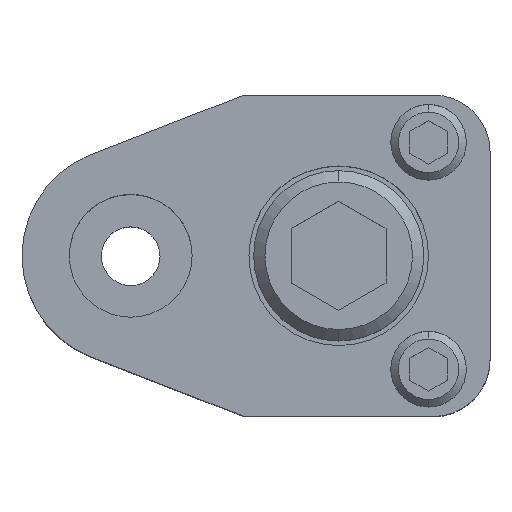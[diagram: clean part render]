
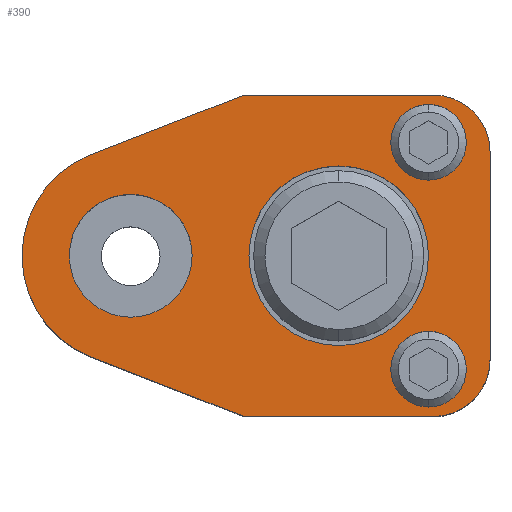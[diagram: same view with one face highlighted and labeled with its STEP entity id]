
A CAD part, top view. The second image highlights one B-rep face of the part: STEP entity #390.
In plain terms, the highlighted planar face has unit normal (0, 0, 1).
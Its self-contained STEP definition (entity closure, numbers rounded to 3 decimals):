
#192=FACE_BOUND('',#693,.T.);
#193=FACE_BOUND('',#694,.T.);
#194=FACE_BOUND('',#695,.T.);
#195=FACE_BOUND('',#696,.T.);
#196=FACE_BOUND('',#697,.T.);
#243=CIRCLE('',#2256,6.);
#246=CIRCLE('',#2262,6.);
#251=CIRCLE('',#2270,9.5);
#253=CIRCLE('',#2273,9.5);
#255=CIRCLE('',#2277,11.5);
#256=CIRCLE('',#2278,4.);
#257=CIRCLE('',#2279,4.);
#258=CIRCLE('',#2280,4.);
#259=CIRCLE('',#2281,4.);
#260=CIRCLE('',#2282,6.5);
#261=CIRCLE('',#2283,6.5);
#390=ADVANCED_FACE('',(#192,#193,#194,#195,#196),#501,.T.);
#501=PLANE('',#2284);
#693=EDGE_LOOP('',(#973,#974,#975,#976,#977,#978,#979,#980));
#694=EDGE_LOOP('',(#981,#982));
#695=EDGE_LOOP('',(#983,#984));
#696=EDGE_LOOP('',(#985,#986));
#697=EDGE_LOOP('',(#987,#988));
#973=ORIENTED_EDGE('',*,*,#1647,.T.);
#974=ORIENTED_EDGE('',*,*,#1651,.T.);
#975=ORIENTED_EDGE('',*,*,#1654,.T.);
#976=ORIENTED_EDGE('',*,*,#1674,.T.);
#977=ORIENTED_EDGE('',*,*,#1675,.T.);
#978=ORIENTED_EDGE('',*,*,#1676,.T.);
#979=ORIENTED_EDGE('',*,*,#1657,.T.);
#980=ORIENTED_EDGE('',*,*,#1661,.T.);
#981=ORIENTED_EDGE('',*,*,#1677,.F.);
#982=ORIENTED_EDGE('',*,*,#1678,.F.);
#983=ORIENTED_EDGE('',*,*,#1679,.F.);
#984=ORIENTED_EDGE('',*,*,#1680,.F.);
#985=ORIENTED_EDGE('',*,*,#1672,.F.);
#986=ORIENTED_EDGE('',*,*,#1668,.F.);
#987=ORIENTED_EDGE('',*,*,#1681,.T.);
#988=ORIENTED_EDGE('',*,*,#1682,.T.);
#1434=VERTEX_POINT('',#3270);
#1435=VERTEX_POINT('',#3272);
#1438=VERTEX_POINT('',#3279);
#1440=VERTEX_POINT('',#3285);
#1442=VERTEX_POINT('',#3291);
#1443=VERTEX_POINT('',#3293);
#1449=VERTEX_POINT('',#3314);
#1450=VERTEX_POINT('',#3315);
#1453=VERTEX_POINT('',#3327);
#1454=VERTEX_POINT('',#3329);
#1455=VERTEX_POINT('',#3332);
#1456=VERTEX_POINT('',#3333);
#1457=VERTEX_POINT('',#3336);
#1458=VERTEX_POINT('',#3337);
#1459=VERTEX_POINT('',#3340);
#1460=VERTEX_POINT('',#3341);
#1647=EDGE_CURVE('',#1435,#1434,#1925,.T.);
#1651=EDGE_CURVE('',#1434,#1438,#243,.T.);
#1654=EDGE_CURVE('',#1438,#1440,#1930,.T.);
#1657=EDGE_CURVE('',#1443,#1442,#1933,.T.);
#1661=EDGE_CURVE('',#1442,#1435,#246,.T.);
#1668=EDGE_CURVE('',#1449,#1450,#251,.T.);
#1672=EDGE_CURVE('',#1450,#1449,#253,.T.);
#1674=EDGE_CURVE('',#1440,#1453,#1940,.T.);
#1675=EDGE_CURVE('',#1453,#1454,#255,.T.);
#1676=EDGE_CURVE('',#1454,#1443,#1941,.T.);
#1677=EDGE_CURVE('',#1455,#1456,#256,.T.);
#1678=EDGE_CURVE('',#1456,#1455,#257,.T.);
#1679=EDGE_CURVE('',#1457,#1458,#258,.T.);
#1680=EDGE_CURVE('',#1458,#1457,#259,.T.);
#1681=EDGE_CURVE('',#1459,#1460,#260,.T.);
#1682=EDGE_CURVE('',#1460,#1459,#261,.T.);
#1925=LINE('',#3271,#2091);
#1930=LINE('',#3286,#2096);
#1933=LINE('',#3292,#2099);
#1940=LINE('',#3326,#2106);
#1941=LINE('',#3330,#2107);
#2091=VECTOR('',#2604,1.);
#2096=VECTOR('',#2617,1.);
#2099=VECTOR('',#2622,1.);
#2106=VECTOR('',#2663,1.);
#2107=VECTOR('',#2666,1.);
#2256=AXIS2_PLACEMENT_3D('',#3280,#2610,#2611);
#2262=AXIS2_PLACEMENT_3D('',#3299,#2629,#2630);
#2270=AXIS2_PLACEMENT_3D('',#3313,#2647,#2648);
#2273=AXIS2_PLACEMENT_3D('',#3322,#2655,#2656);
#2277=AXIS2_PLACEMENT_3D('',#3328,#2664,#2665);
#2278=AXIS2_PLACEMENT_3D('',#3331,#2667,#2668);
#2279=AXIS2_PLACEMENT_3D('',#3334,#2669,#2670);
#2280=AXIS2_PLACEMENT_3D('',#3335,#2671,#2672);
#2281=AXIS2_PLACEMENT_3D('',#3338,#2673,#2674);
#2282=AXIS2_PLACEMENT_3D('',#3339,#2675,#2676);
#2283=AXIS2_PLACEMENT_3D('',#3342,#2677,#2678);
#2284=AXIS2_PLACEMENT_3D('',#3343,#2679,#2680);
#2604=DIRECTION('',(0.,1.,0.));
#2610=DIRECTION('',(0.,0.,1.));
#2611=DIRECTION('',(-0.707,-0.707,0.));
#2617=DIRECTION('',(-1.,0.,0.));
#2622=DIRECTION('',(1.,0.,0.));
#2629=DIRECTION('',(0.,0.,1.));
#2630=DIRECTION('',(-0.707,0.707,0.));
#2647=DIRECTION('',(0.,0.,1.));
#2648=DIRECTION('',(-1.,0.,0.));
#2655=DIRECTION('',(0.,0.,1.));
#2656=DIRECTION('',(1.,0.,0.));
#2663=DIRECTION('',(-0.932,-0.362,0.));
#2664=DIRECTION('',(0.,0.,1.));
#2665=DIRECTION('',(0.,1.,0.));
#2666=DIRECTION('',(0.932,-0.362,0.));
#2667=DIRECTION('',(0.,0.,1.));
#2668=DIRECTION('',(-1.,0.,0.));
#2669=DIRECTION('',(0.,0.,1.));
#2670=DIRECTION('',(1.,0.,0.));
#2671=DIRECTION('',(0.,0.,1.));
#2672=DIRECTION('',(-1.,0.,0.));
#2673=DIRECTION('',(0.,0.,1.));
#2674=DIRECTION('',(1.,0.,0.));
#2675=DIRECTION('',(0.,0.,-1.));
#2676=DIRECTION('',(-1.,0.,0.));
#2677=DIRECTION('',(0.,0.,-1.));
#2678=DIRECTION('',(1.,0.,0.));
#2679=DIRECTION('',(0.,0.,1.));
#2680=DIRECTION('',(0.,-1.,0.));
#3270=CARTESIAN_POINT('',(38.,11.,30.));
#3271=CARTESIAN_POINT('',(38.,-11.,30.));
#3272=CARTESIAN_POINT('',(38.,-11.,30.));
#3279=CARTESIAN_POINT('',(32.,17.,30.));
#3280=CARTESIAN_POINT('',(32.,11.,30.));
#3285=CARTESIAN_POINT('',(12.,17.,30.));
#3286=CARTESIAN_POINT('',(12.,17.,30.));
#3291=CARTESIAN_POINT('',(32.,-17.,30.));
#3292=CARTESIAN_POINT('',(12.,-17.,30.));
#3293=CARTESIAN_POINT('',(12.,-17.,30.));
#3299=CARTESIAN_POINT('',(32.,-11.,30.));
#3313=CARTESIAN_POINT('',(22.,0.,30.));
#3314=CARTESIAN_POINT('',(22.,-9.5,30.));
#3315=CARTESIAN_POINT('',(22.,9.5,30.));
#3322=CARTESIAN_POINT('',(22.,0.,30.));
#3326=CARTESIAN_POINT('',(12.,17.,30.));
#3327=CARTESIAN_POINT('',(-4.165,10.719,30.));
#3328=CARTESIAN_POINT('',(0.,0.,30.));
#3329=CARTESIAN_POINT('',(-4.165,-10.719,30.));
#3330=CARTESIAN_POINT('',(12.,-17.,30.));
#3331=CARTESIAN_POINT('',(31.5,-12.,30.));
#3332=CARTESIAN_POINT('',(31.5,-16.,30.));
#3333=CARTESIAN_POINT('',(31.5,-8.,30.));
#3334=CARTESIAN_POINT('',(31.5,-12.,30.));
#3335=CARTESIAN_POINT('',(31.5,12.,30.));
#3336=CARTESIAN_POINT('',(31.5,8.,30.));
#3337=CARTESIAN_POINT('',(31.5,16.,30.));
#3338=CARTESIAN_POINT('',(31.5,12.,30.));
#3339=CARTESIAN_POINT('',(0.,0.,30.));
#3340=CARTESIAN_POINT('',(0.,6.5,30.));
#3341=CARTESIAN_POINT('',(0.,-6.5,30.));
#3342=CARTESIAN_POINT('',(0.,0.,30.));
#3343=CARTESIAN_POINT('',(38.,-11.,30.));
